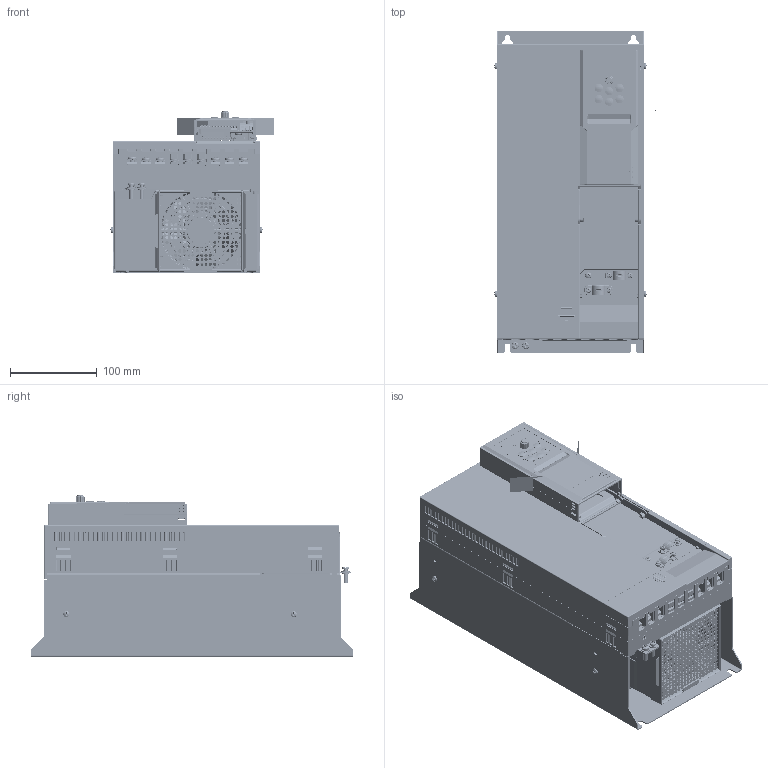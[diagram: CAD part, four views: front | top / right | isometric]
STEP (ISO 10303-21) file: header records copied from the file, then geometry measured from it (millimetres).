
FILE_DESCRIPTION((''),'2;1');
FILE_NAME('AD800B-D4-DRIVE_ASM','2022-03-02T14:26:46',('wendong.luo'),(''),'CREO PARAMETRIC BY PTC INC, 2018100','CREO PARAMETRIC BY PTC INC, 2018100','');
FILE_SCHEMA(('CONFIG_CONTROL_DESIGN','GEOMETRIC_VALIDATION_PROPERTIES_MIM'));
Products named in the file (31): D4-MECHANICAL-PART; M0100011; M0100015; M0203012; E0400030; M0202007; M0202003; M0202000; M0104022; M0104021; FAN9238; AIR-IN-FILTER; FAN-ASM-9238_ASM; E0400047; E0400044; D4-PU_ASM; M0104035; E0100130; E0300012; E0400000; E0400001; E0200156; E0400074; E0400073; E0400011; E0100130_ASM; M0203043; M0104036; M0104034; CU0B_ASM; AD800B-D4-DRIVE_ASM
Assembly tree (45 placements, depth 4):
  AD800B-D4-DRIVE_ASM
    D4-PU_ASM
      D4-MECHANICAL-PART
      M0100011
      M0100015  x2
      M0203012
      E0400030
      M0202007  x2
      M0202003  x4
      M0202000  x5
      M0104022
      FAN-ASM-9238_ASM
        M0104021
        FAN9238
        AIR-IN-FILTER
      E0400047
      E0400044  x2
    CU0B_ASM
      M0104035
      E0100130_ASM
        E0100130
        E0300012
        E0400000  x6
        E0400001
        E0200156
        E0400074
        E0400073
        E0400011
      M0203043
      M0104036
      M0104034
Bounding box: 187.77 x 370 x 186.7 mm (x, y, z)
Volume: 6962500.1 mm3; surface area: 883638.1 mm2
Topology: 58 solids, 79 shells, 17605 faces, 47584 edges, 30680 vertices
Faces by surface type: plane 10840, cylinder 3435, bspline 2102, cone 586, extrusion 267, torus 242, sphere 133
Entity records: 740647 total; most frequent: CARTESIAN_POINT 205315, ORIENTED_EDGE 88542, DIRECTION 74261, EDGE_CURVE 44311, PRESENTATION_STYLE_ASSIGNMENT 38893, STYLED_ITEM 36930, CURVE_STYLE 36196, VECTOR 31089
